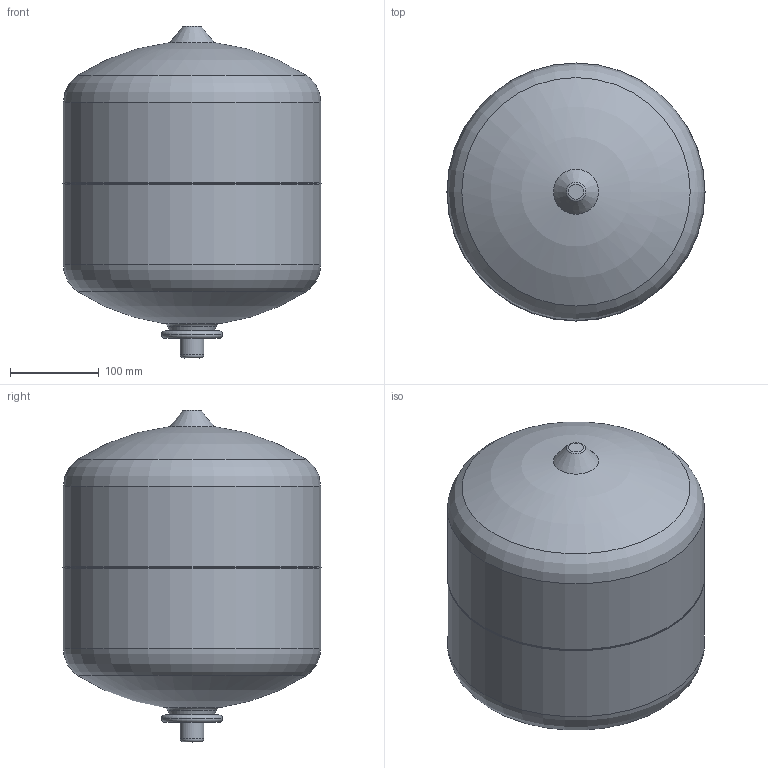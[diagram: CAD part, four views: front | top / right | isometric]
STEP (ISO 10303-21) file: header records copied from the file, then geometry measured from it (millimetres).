
FILE_DESCRIPTION(('STEP AP203'), '1');
FILE_NAME('306518.003-VT.A.R.050018', '2024-08-20T11:08:32', ('IT'), ('VESTA'), 'C3D Converter', 'C3D Toolkit', '');
FILE_SCHEMA(('CONFIG_CONTROL_DESIGN'));
Length unit declared in the file: millimetre
Bounding box: 290.8 x 290.8 x 374.18 mm (x, y, z)
Volume: 17949189.8 mm3; surface area: 352954.5 mm2
Topology: 1 solids, 1 shells, 35 faces, 97 edges, 68 vertices
Faces by surface type: torus 16, cylinder 8, plane 6, cone 3, sphere 2
Full cylindrical faces by diameter (mm): 16 x1, 21.5 x1, 26.441 x1, 55.9 x1, 69 x1, 290 x2, 290.8 x1
Entity records: 1065 total; most frequent: DIRECTION 208, CARTESIAN_POINT 172, ORIENTED_EDGE 136, AXIS2_PLACEMENT_3D 104, FACE_BOUND 68, EDGE_LOOP 68, EDGE_CURVE 68, VERTEX_POINT 68
